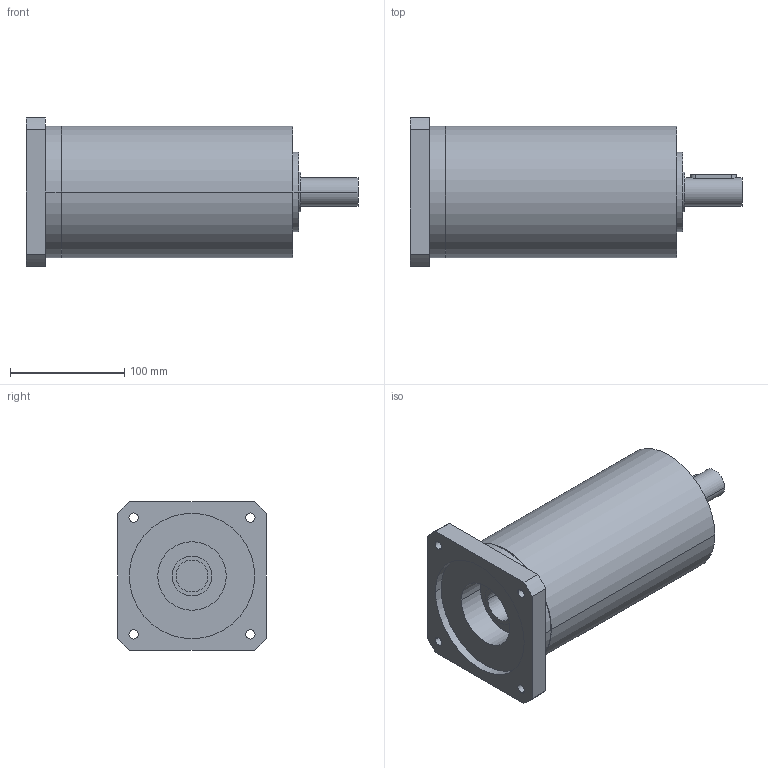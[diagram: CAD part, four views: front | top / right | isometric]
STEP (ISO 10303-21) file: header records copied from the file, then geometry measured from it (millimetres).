
FILE_DESCRIPTION(('CoCreate Modeling STEP Export'),'2;1');
FILE_NAME('GPR125_ig-48-64-80-100-140-196-245-343_25_B14_28_P11.stp','2014-08-26T14:22:51',(''),(''),'CoCreate Modeling STEP processor for AP214 (Solid Model)','CoCreate Modeling 16.00C 25-Feb-2009 (C) Parametric Technology GmbH','');
FILE_SCHEMA(('AUTOMOTIVE_DESIGN { 1 0 10303 214 1 1 1 1 }'));
Length unit declared in the file: millimetre
Products named in the file (2): GPR125_ig-48-64-80-100-140-196-245-343_25_B14_28_P11
Assembly tree (1 placements, depth 2):
  GPR125_ig-48-64-80-100-140-196-245-343_25_B14_28_P11
    GPR125_ig-48-64-80-100-140-196-245-343_25_B14_28_P11
Bounding box: 291 x 130 x 130 mm (x, y, z)
Volume: 2413855.8 mm3; surface area: 142539.6 mm2
Topology: 1 solids, 1 shells, 68 faces, 187 edges, 133 vertices
Faces by surface type: cylinder 42, plane 22, cone 4
Entity records: 1923 total; most frequent: ORIENTED_EDGE 370, CARTESIAN_POINT 362, DIRECTION 258, EDGE_CURVE 185, VERTEX_POINT 133, AXIS2_PLACEMENT_3D 97, EDGE_LOOP 90, FACE_OUTER_BOUND 68
